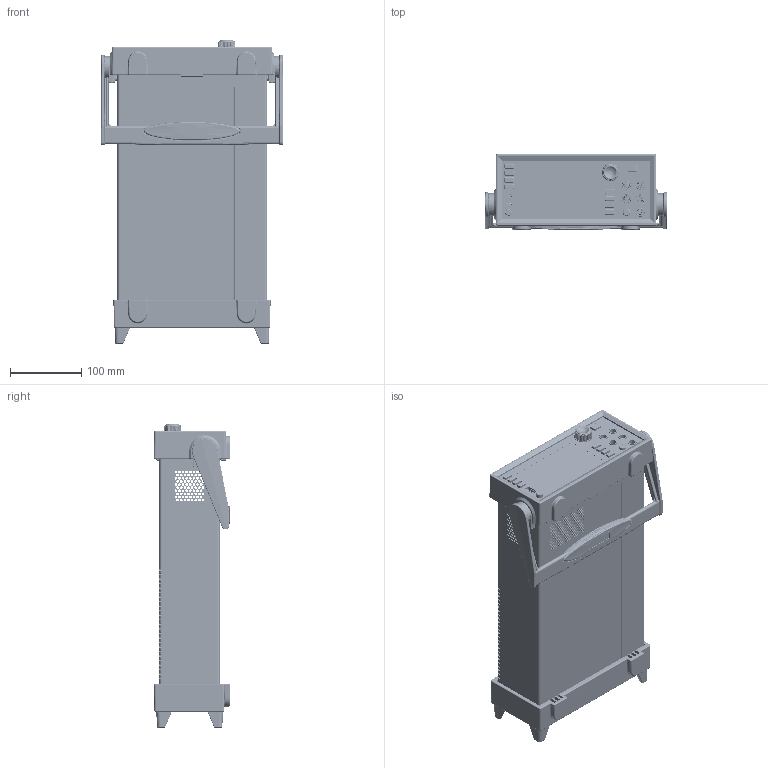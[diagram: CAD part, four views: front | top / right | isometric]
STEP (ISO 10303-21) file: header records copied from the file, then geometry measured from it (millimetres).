
FILE_DESCRIPTION((''),'2;1');
FILE_NAME('2460_ASM','2014-09-03T',('mboehnle'),('Keithley Instruments, Inc'),'PRO/ENGINEER BY PARAMETRIC TECHNOLOGY CORPORATION, 2012480','PRO/ENGINEER BY PARAMETRIC TECHNOLOGY CORPORATION, 2012480','');
FILE_SCHEMA(('CONFIG_CONTROL_DESIGN'));
Length unit declared in the file: inch
Products named in the file (72): 2450-301; PEM-SOS-632-8; PEM-BS-632-2; PEM-BSOS-632-18; PEM-CLS-632-2; PEM-FHS-632-6; PEM-RAS-632-10-8; 2450-301_ASM; 3334732; PEM-AC-632-2; 3334732_ASM; 3353304; TM8039; 3353304_ASM; SW-466; CS-1234; 7002-323-2; 8781059_ASM; 6-32X1-4PPH; 3867777; PEM-SOS-632-6; 3867777_ASM; 6-32X1-4PFHUC; 3482140; 3482141; 131930600; CS-1614-3; 1319234; 1317440; HS-72; 8780995_ASM; 2450-306; 2450-322; 2450-306_ASM; 2450-305; 2450-313; 2450-313-1; 2450-313-2; 2450-314; 2450-313_ASM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
Assembly tree (126 placements, depth 4):
  2460_ASM
    2450-301_ASM
      2450-301
      PEM-SOS-632-8  x4
      PEM-BS-632-2  x4
      PEM-BSOS-632-18  x4
      PEM-CLS-632-2  x6
      PEM-FHS-632-6
      PEM-RAS-632-10-8  x3
    3334732_ASM
      3334732
      PEM-AC-632-2
      PEM-CLS-632-2  x3
      PEM-BS-632-2  x2
    3353304_ASM
      3353304
      TM8039
    8781059_ASM
      SW-466
      CS-1234
      7002-323-2
    6-32X1-4PPH  x4
    3867777_ASM
      3867777
      PEM-CLS-632-2  x4
      PEM-RAS-632-10-8
      PEM-SOS-632-6  x4
    6-32X1-4PFHUC  x5
    3482140
    3482141  x2
    8780995_ASM
      131930600
      CS-1614-3
      1319234
      1317440
      HS-72  x4
    2460-FP-ASSEMBLY_ASM
      2450-306_ASM
        2450-306
        2450-322  x5
      2450-305
      2450-313_ASM
        2450-313
        2450-313-1
        2450-313-2
        2450-314
      DD-77_ASM
        DD-77
        DD-77-GLASS
      3353303_ASM
        3353303
        2460-LABEL-FRONT-PANEL-ARTWORK
      6-32X1-4PPH  x7
    LF-11-FUSELESS
    2450-140_ASM
      CS-507
      CS-1150-1
      CS-761-9
      CS-1032
      CS-1644-2
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Bounding box: 255.27 x 107.15 x 425.28 mm (x, y, z)
Volume: 1194645.1 mm3; surface area: 1090275.6 mm2
Topology: 110 solids, 183 shells, 17777 faces, 47239 edges, 30234 vertices
Faces by surface type: plane 10109, cylinder 5268, cone 866, bspline 827, torus 370, sphere 173, extrusion 164
Entity records: 519926 total; most frequent: CARTESIAN_POINT 141475, ORIENTED_EDGE 79590, DIRECTION 75240, EDGE_CURVE 40160, VECTOR 27526, LINE 27362, VERTEX_POINT 25815, AXIS2_PLACEMENT_3D 23857
